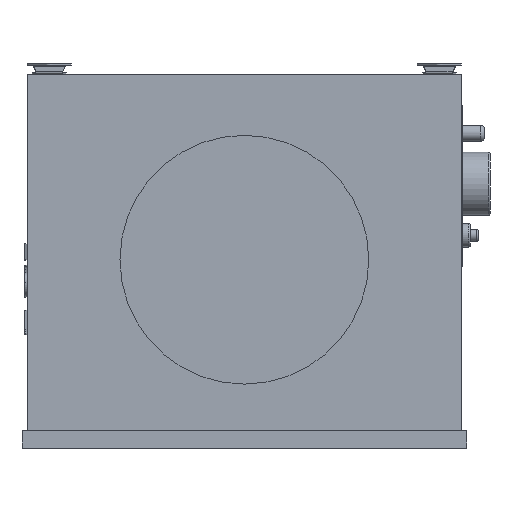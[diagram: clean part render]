
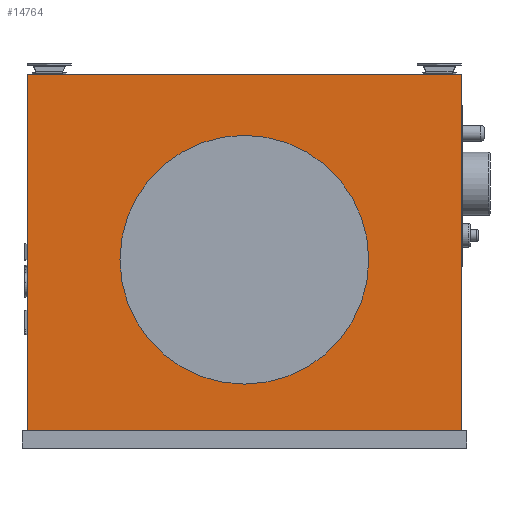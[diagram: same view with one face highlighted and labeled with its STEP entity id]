
A CAD part, front view. The second image highlights one B-rep face of the part: STEP entity #14764.
In plain terms, the highlighted planar face has unit normal (0, -1, 0).
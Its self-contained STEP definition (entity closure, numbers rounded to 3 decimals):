
#174=CIRCLE('',#15344,157.5);
#316=FACE_BOUND('',#2291,.T.);
#1459=FACE_OUTER_BOUND('',#2290,.T.);
#2290=EDGE_LOOP('',(#13384,#13385,#13386,#13387));
#2291=EDGE_LOOP('',(#13388));
#3286=LINE('',#26137,#4546);
#3549=LINE('',#30915,#4809);
#3550=LINE('',#30917,#4810);
#3551=LINE('',#30918,#4811);
#4546=VECTOR('',#16832,10.);
#4809=VECTOR('',#17739,10.);
#4810=VECTOR('',#17742,10.);
#4811=VECTOR('',#17743,10.);
#6680=VERTEX_POINT('',#26133);
#6682=VERTEX_POINT('',#26136);
#6970=VERTEX_POINT('',#30886);
#6978=VERTEX_POINT('',#30911);
#6979=VERTEX_POINT('',#30913);
#8672=EDGE_CURVE('',#6680,#6682,#3286,.T.);
#9115=EDGE_CURVE('',#6970,#6970,#174,.T.);
#9128=EDGE_CURVE('',#6978,#6979,#3549,.T.);
#9129=EDGE_CURVE('',#6978,#6680,#3550,.T.);
#9130=EDGE_CURVE('',#6682,#6979,#3551,.T.);
#13384=ORIENTED_EDGE('',*,*,#9129,.F.);
#13385=ORIENTED_EDGE('',*,*,#9128,.T.);
#13386=ORIENTED_EDGE('',*,*,#9130,.F.);
#13387=ORIENTED_EDGE('',*,*,#8672,.F.);
#13388=ORIENTED_EDGE('',*,*,#9115,.T.);
#13768=PLANE('',#15356);
#14764=ADVANCED_FACE('',(#1459,#316),#13768,.T.);
#15344=AXIS2_PLACEMENT_3D('',#30887,#17708,#17709);
#15356=AXIS2_PLACEMENT_3D('',#30916,#17740,#17741);
#16832=DIRECTION('',(0.,0.,1.));
#17708=DIRECTION('center_axis',(0.,1.,0.));
#17709=DIRECTION('ref_axis',(1.,0.,0.));
#17739=DIRECTION('',(0.,0.,1.));
#17740=DIRECTION('center_axis',(0.,-1.,0.));
#17741=DIRECTION('ref_axis',(1.,0.,0.));
#17742=DIRECTION('',(-1.,0.,0.));
#17743=DIRECTION('',(1.,0.,0.));
#26133=CARTESIAN_POINT('',(-271.825,-250.05,-214.75));
#26136=CARTESIAN_POINT('',(-271.825,-250.05,236.75));
#26137=CARTESIAN_POINT('',(-271.825,-250.05,-214.75));
#30886=CARTESIAN_POINT('',(-154.325,-250.05,1.75));
#30887=CARTESIAN_POINT('Origin',(3.175,-250.05,1.75));
#30911=CARTESIAN_POINT('',(278.175,-250.05,-214.75));
#30913=CARTESIAN_POINT('',(278.175,-250.05,236.75));
#30915=CARTESIAN_POINT('',(278.175,-250.05,-214.75));
#30916=CARTESIAN_POINT('Origin',(-271.825,-250.05,-214.75));
#30917=CARTESIAN_POINT('',(-134.325,-250.05,-214.75));
#30918=CARTESIAN_POINT('',(-271.825,-250.05,236.75));
